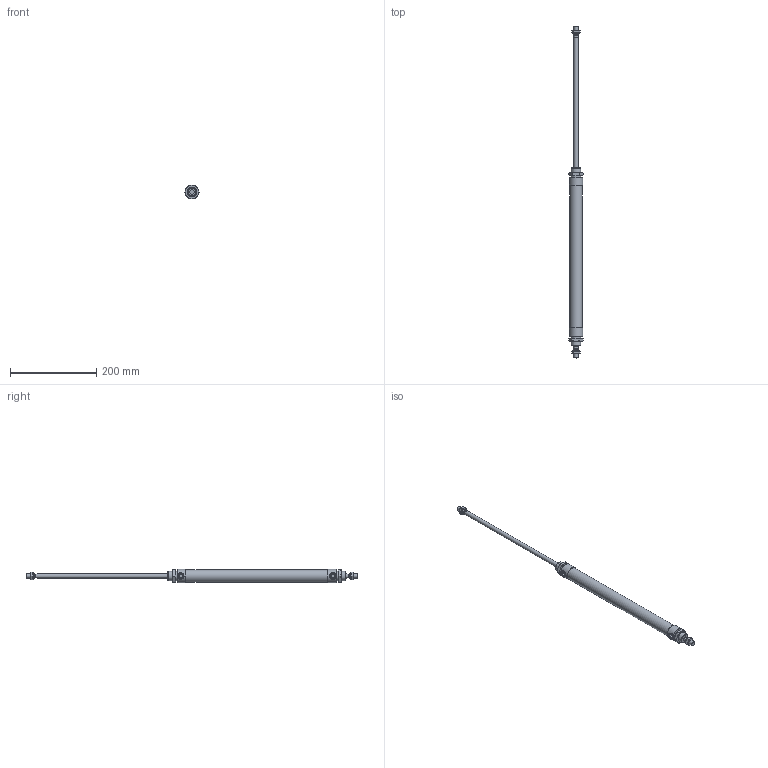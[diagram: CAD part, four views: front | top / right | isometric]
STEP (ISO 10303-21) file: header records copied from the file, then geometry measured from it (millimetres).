
FILE_DESCRIPTION((''),'2;1');
FILE_NAME('L:\Lib-3d\1200\CILINDRI\1232\1232_25_0300.stp','2006-01-05T14:32:02',('medicfa1'),(''),'Autodesk Inventor 10','Autodesk Inventor 10','');
FILE_SCHEMA(('AUTOMOTIVE_DESIGN { 1 0 10303 214 1 1 1 1 }'));
Length unit declared in the file: millimetre
Products named in the file (5): 1232_25_0300; C1232_25_300; S1232_25_300; 1200_25_05; 1200_25_06
Assembly tree (6 placements, depth 2):
  1232_25_0300
    C1232_25_300
    S1232_25_300
    1200_25_05  x2
    1200_25_06  x2
Bounding box: 34.64 x 768 x 31.5 mm (x, y, z)
Volume: 299732.5 mm3; surface area: 81933 mm2
Topology: 6 solids, 6 shells, 141 faces, 299 edges, 178 vertices
Faces by surface type: plane 62, cone 54, cylinder 15, bspline 10
Full cylindrical faces by diameter (mm): 8.7 x2, 8.8 x2, 10 x4, 15 x2, 22 x2, 29 x1, 31.5 x2
Entity records: 2620 total; most frequent: CARTESIAN_POINT 721, DIRECTION 390, ORIENTED_EDGE 324, AXIS2_PLACEMENT_3D 177, EDGE_CURVE 162, EDGE_LOOP 136, VERTEX_POINT 110, FACE_OUTER_BOUND 95
